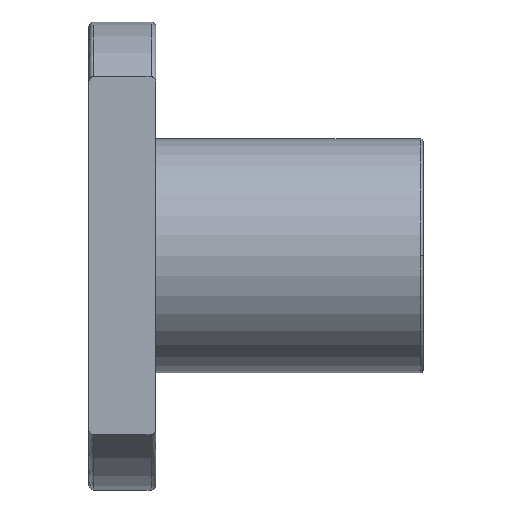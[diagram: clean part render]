
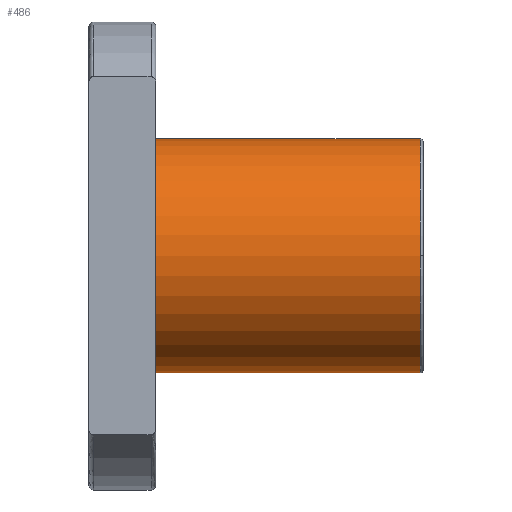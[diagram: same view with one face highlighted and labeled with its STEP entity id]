
A CAD part, top view. The second image highlights one B-rep face of the part: STEP entity #486.
In plain terms, the highlighted cylindrical face has radius 10.5 mm (diameter 21 mm), a partial arc.
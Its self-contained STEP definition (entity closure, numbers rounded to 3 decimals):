
#335 = TOROIDAL_SURFACE('',#336,10.23,0.27);
#336 = AXIS2_PLACEMENT_3D('',#337,#338,#339);
#337 = CARTESIAN_POINT('',(29.73,0.,0.));
#338 = DIRECTION('',(1.,0.,0.));
#339 = DIRECTION('',(0.,0.,-1.));
#347 = TOROIDAL_SURFACE('',#348,10.23,0.27);
#348 = AXIS2_PLACEMENT_3D('',#349,#350,#351);
#349 = CARTESIAN_POINT('',(29.73,0.,0.));
#350 = DIRECTION('',(1.,0.,0.));
#351 = DIRECTION('',(0.,0.,-1.));
#360 = VERTEX_POINT('',#361);
#361 = CARTESIAN_POINT('',(29.73,10.5,0.));
#376 = CYLINDRICAL_SURFACE('',#377,10.5);
#377 = AXIS2_PLACEMENT_3D('',#378,#379,#380);
#378 = CARTESIAN_POINT('',(17.865,0.,0.));
#379 = DIRECTION('',(1.,0.,0.));
#380 = DIRECTION('',(-0.,1.,0.));
#388 = EDGE_CURVE('',#360,#389,#391,.T.);
#389 = VERTEX_POINT('',#390);
#390 = CARTESIAN_POINT('',(29.73,0.,10.5));
#391 = SURFACE_CURVE('',#392,(#397,#404),.PCURVE_S1.);
#392 = CIRCLE('',#393,10.5);
#393 = AXIS2_PLACEMENT_3D('',#394,#395,#396);
#394 = CARTESIAN_POINT('',(29.73,0.,0.));
#395 = DIRECTION('',(1.,0.,0.));
#396 = DIRECTION('',(-0.,1.,0.));
#397 = PCURVE('',#335,#398);
#398 = DEFINITIONAL_REPRESENTATION('',(#399),#403);
#399 = LINE('',#400,#401);
#400 = CARTESIAN_POINT('',(1.571,0.));
#401 = VECTOR('',#402,1.);
#402 = DIRECTION('',(1.,0.));
#403 = ( GEOMETRIC_REPRESENTATION_CONTEXT(2) 
PARAMETRIC_REPRESENTATION_CONTEXT() REPRESENTATION_CONTEXT('2D SPACE',''
  ) );
#404 = PCURVE('',#405,#410);
#405 = CYLINDRICAL_SURFACE('',#406,10.5);
#406 = AXIS2_PLACEMENT_3D('',#407,#408,#409);
#407 = CARTESIAN_POINT('',(17.865,0.,0.));
#408 = DIRECTION('',(1.,0.,0.));
#409 = DIRECTION('',(-0.,1.,0.));
#410 = DEFINITIONAL_REPRESENTATION('',(#411),#415);
#411 = LINE('',#412,#413);
#412 = CARTESIAN_POINT('',(0.,11.865));
#413 = VECTOR('',#414,1.);
#414 = DIRECTION('',(1.,0.));
#415 = ( GEOMETRIC_REPRESENTATION_CONTEXT(2) 
PARAMETRIC_REPRESENTATION_CONTEXT() REPRESENTATION_CONTEXT('2D SPACE',''
  ) );
#486 = ADVANCED_FACE('',(#487),#405,.T.);
#487 = FACE_BOUND('',#488,.T.);
#488 = EDGE_LOOP('',(#489,#512,#541,#564,#586));
#489 = ORIENTED_EDGE('',*,*,#490,.F.);
#490 = EDGE_CURVE('',#491,#360,#493,.T.);
#491 = VERTEX_POINT('',#492);
#492 = CARTESIAN_POINT('',(6.,10.5,0.));
#493 = SURFACE_CURVE('',#494,(#498,#505),.PCURVE_S1.);
#494 = LINE('',#495,#496);
#495 = CARTESIAN_POINT('',(17.865,10.5,0.));
#496 = VECTOR('',#497,1.);
#497 = DIRECTION('',(1.,0.,0.));
#498 = PCURVE('',#405,#499);
#499 = DEFINITIONAL_REPRESENTATION('',(#500),#504);
#500 = LINE('',#501,#502);
#501 = CARTESIAN_POINT('',(0.,0.));
#502 = VECTOR('',#503,1.);
#503 = DIRECTION('',(0.,1.));
#504 = ( GEOMETRIC_REPRESENTATION_CONTEXT(2) 
PARAMETRIC_REPRESENTATION_CONTEXT() REPRESENTATION_CONTEXT('2D SPACE',''
  ) );
#505 = PCURVE('',#376,#506);
#506 = DEFINITIONAL_REPRESENTATION('',(#507),#511);
#507 = LINE('',#508,#509);
#508 = CARTESIAN_POINT('',(6.283,0.));
#509 = VECTOR('',#510,1.);
#510 = DIRECTION('',(0.,1.));
#511 = ( GEOMETRIC_REPRESENTATION_CONTEXT(2) 
PARAMETRIC_REPRESENTATION_CONTEXT() REPRESENTATION_CONTEXT('2D SPACE',''
  ) );
#512 = ORIENTED_EDGE('',*,*,#513,.T.);
#513 = EDGE_CURVE('',#491,#514,#516,.T.);
#514 = VERTEX_POINT('',#515);
#515 = CARTESIAN_POINT('',(6.,-10.5,0.));
#516 = SURFACE_CURVE('',#517,(#522,#529),.PCURVE_S1.);
#517 = CIRCLE('',#518,10.5);
#518 = AXIS2_PLACEMENT_3D('',#519,#520,#521);
#519 = CARTESIAN_POINT('',(6.,0.,0.));
#520 = DIRECTION('',(1.,0.,0.));
#521 = DIRECTION('',(-0.,1.,0.));
#522 = PCURVE('',#405,#523);
#523 = DEFINITIONAL_REPRESENTATION('',(#524),#528);
#524 = LINE('',#525,#526);
#525 = CARTESIAN_POINT('',(0.,-11.865));
#526 = VECTOR('',#527,1.);
#527 = DIRECTION('',(1.,0.));
#528 = ( GEOMETRIC_REPRESENTATION_CONTEXT(2) 
PARAMETRIC_REPRESENTATION_CONTEXT() REPRESENTATION_CONTEXT('2D SPACE',''
  ) );
#529 = PCURVE('',#530,#535);
#530 = PLANE('',#531);
#531 = AXIS2_PLACEMENT_3D('',#532,#533,#534);
#532 = CARTESIAN_POINT('',(6.,15.54,0.));
#533 = DIRECTION('',(1.,0.,0.));
#534 = DIRECTION('',(0.,1.,0.));
#535 = DEFINITIONAL_REPRESENTATION('',(#536),#540);
#536 = CIRCLE('',#537,10.5);
#537 = AXIS2_PLACEMENT_2D('',#538,#539);
#538 = CARTESIAN_POINT('',(-15.54,0.));
#539 = DIRECTION('',(1.,0.));
#540 = ( GEOMETRIC_REPRESENTATION_CONTEXT(2) 
PARAMETRIC_REPRESENTATION_CONTEXT() REPRESENTATION_CONTEXT('2D SPACE',''
  ) );
#541 = ORIENTED_EDGE('',*,*,#542,.F.);
#542 = EDGE_CURVE('',#543,#514,#545,.T.);
#543 = VERTEX_POINT('',#544);
#544 = CARTESIAN_POINT('',(29.73,-10.5,0.));
#545 = SURFACE_CURVE('',#546,(#550,#557),.PCURVE_S1.);
#546 = LINE('',#547,#548);
#547 = CARTESIAN_POINT('',(17.865,-10.5,0.));
#548 = VECTOR('',#549,1.);
#549 = DIRECTION('',(-1.,-0.,-0.));
#550 = PCURVE('',#405,#551);
#551 = DEFINITIONAL_REPRESENTATION('',(#552),#556);
#552 = LINE('',#553,#554);
#553 = CARTESIAN_POINT('',(3.142,0.));
#554 = VECTOR('',#555,1.);
#555 = DIRECTION('',(0.,-1.));
#556 = ( GEOMETRIC_REPRESENTATION_CONTEXT(2) 
PARAMETRIC_REPRESENTATION_CONTEXT() REPRESENTATION_CONTEXT('2D SPACE',''
  ) );
#557 = PCURVE('',#376,#558);
#558 = DEFINITIONAL_REPRESENTATION('',(#559),#563);
#559 = LINE('',#560,#561);
#560 = CARTESIAN_POINT('',(3.142,0.));
#561 = VECTOR('',#562,1.);
#562 = DIRECTION('',(0.,-1.));
#563 = ( GEOMETRIC_REPRESENTATION_CONTEXT(2) 
PARAMETRIC_REPRESENTATION_CONTEXT() REPRESENTATION_CONTEXT('2D SPACE',''
  ) );
#564 = ORIENTED_EDGE('',*,*,#565,.F.);
#565 = EDGE_CURVE('',#389,#543,#566,.T.);
#566 = SURFACE_CURVE('',#567,(#572,#579),.PCURVE_S1.);
#567 = CIRCLE('',#568,10.5);
#568 = AXIS2_PLACEMENT_3D('',#569,#570,#571);
#569 = CARTESIAN_POINT('',(29.73,0.,0.));
#570 = DIRECTION('',(1.,0.,0.));
#571 = DIRECTION('',(-0.,1.,0.));
#572 = PCURVE('',#405,#573);
#573 = DEFINITIONAL_REPRESENTATION('',(#574),#578);
#574 = LINE('',#575,#576);
#575 = CARTESIAN_POINT('',(0.,11.865));
#576 = VECTOR('',#577,1.);
#577 = DIRECTION('',(1.,0.));
#578 = ( GEOMETRIC_REPRESENTATION_CONTEXT(2) 
PARAMETRIC_REPRESENTATION_CONTEXT() REPRESENTATION_CONTEXT('2D SPACE',''
  ) );
#579 = PCURVE('',#347,#580);
#580 = DEFINITIONAL_REPRESENTATION('',(#581),#585);
#581 = LINE('',#582,#583);
#582 = CARTESIAN_POINT('',(1.571,0.));
#583 = VECTOR('',#584,1.);
#584 = DIRECTION('',(1.,0.));
#585 = ( GEOMETRIC_REPRESENTATION_CONTEXT(2) 
PARAMETRIC_REPRESENTATION_CONTEXT() REPRESENTATION_CONTEXT('2D SPACE',''
  ) );
#586 = ORIENTED_EDGE('',*,*,#388,.F.);
